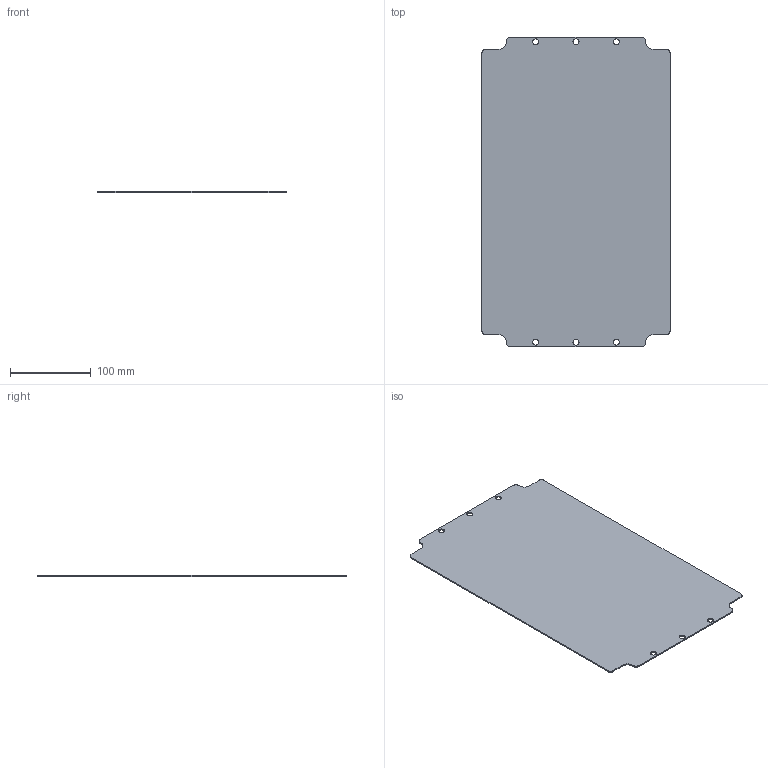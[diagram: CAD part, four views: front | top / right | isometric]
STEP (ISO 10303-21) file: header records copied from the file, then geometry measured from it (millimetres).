
FILE_DESCRIPTION (( 'STEP AP203' ), '1' );
FILE_NAME ('a400250p.STEP', '2013-06-05T17:43:09', ( 'User' ), ( 'Pentair Inc' ), 'SwSTEP 2.0', 'SolidWorks 2010', '' );
FILE_SCHEMA (( 'CONFIG_CONTROL_DESIGN' ));
Length unit declared in the file: inch
Products named in the file (1): a400250p
Bounding box: 233 x 383.5 x 1.5 mm (x, y, z)
Volume: 130980.4 mm3; surface area: 176654.4 mm2
Topology: 1 solids, 1 shells, 38 faces, 108 edges, 72 vertices
Faces by surface type: cylinder 24, plane 14
Entity records: 1363 total; most frequent: DIRECTION 234, CARTESIAN_POINT 219, ORIENTED_EDGE 216, EDGE_CURVE 108, AXIS2_PLACEMENT_3D 87, VERTEX_POINT 72, LINE 60, VECTOR 60
